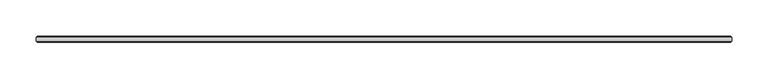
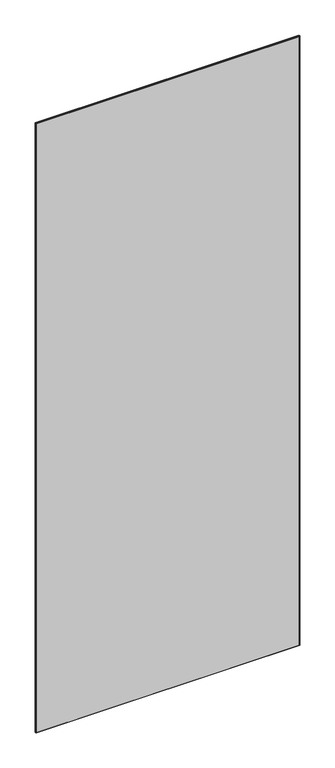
"""IFC4 building model written with IfcOpenShell, lengths in millimetres: plate geometry, 1-AMG-1-Панель одинарный витраж 8, 10 : Смещение 32 Толщина 8mm."""

from ifc_helpers import new_model, si_unit, origin, place, context, project, spatial, faceted_brep, source, transform, mapped, element, save


def plate_84db83da(model_context):
    return source(origin(), model_context, "Body", "Brep", [
        faceted_brep([(478.4988281, -29.5038347, 2326.9976562), (-478.4988281, -29.5038347, 2326.9976562), (-478.4988281, -34.4961653, 2326.9976562), (478.4988281, -34.4961653, 2326.9976562), (478.4988281, -34.5039422, -7.0), (-478.4988281, -34.5039422, -7.0), (-478.4988281, -29.5038347, -7.0), (478.4988281, -29.5038347, -7.0), (-476.9949934, -36.0, 2325.4938215), (-476.9949934, -36.0, -5.5039422), (476.9949934, -36.0, -5.5039422), (476.9949934, -36.0, 2325.4938215), (476.9949934, -28.0, 2325.4938215), (476.9949934, -28.0, -5.4961653), (-476.9949934, -28.0, -5.4961653), (-476.9949934, -28.0, 2325.4938215)], [[[0, 1, 2, 3]], [[4, 5, 6, 7]], [[8, 9, 10, 11]], [[1, 6, 5, 2]], [[12, 13, 14, 15]], [[3, 4, 7, 0]], [[3, 11, 10, 4]], [[7, 13, 12, 0]], [[5, 9, 8, 2]], [[1, 15, 14, 6]], [[0, 12, 15, 1]], [[2, 8, 11, 3]], [[6, 14, 13, 7]], [[4, 10, 9, 5]]]),
    ])


if __name__ == "__main__":
    model = new_model("IFC4")
    model_context = context("Model", 3, world=origin())
    ifc_project = project(units=[si_unit("LENGTHUNIT", "METRE", prefix="MILLI")], contexts=[model_context])
    site = spatial("IfcSite", under=ifc_project)
    building = spatial("IfcBuilding", under=site)
    placement = place(None, origin())
    plate_shape = plate_84db83da(model_context)
    element("IfcPlate", 1, ObjectType="1-AMG-1-Панель одинарный витраж 8, 10 : Смещение 32 Толщина 8mm", at=placement, inside=building, context=model_context, shape_type="MappedRepresentation", body=[
        mapped(plate_shape, transform((0.0, 0.0, 0.0), x_axis=(1.0, 0.0, 0.0), y_axis=(0.0, 1.0, 0.0), z_axis=(0.0, 0.0, 1.0))),
    ])
    save(model, "model.ifc")
